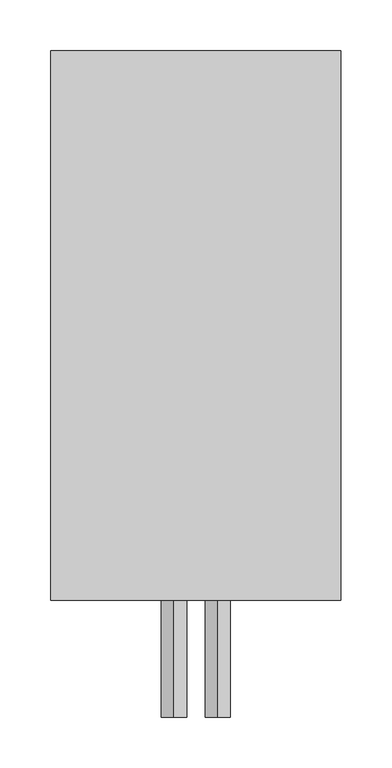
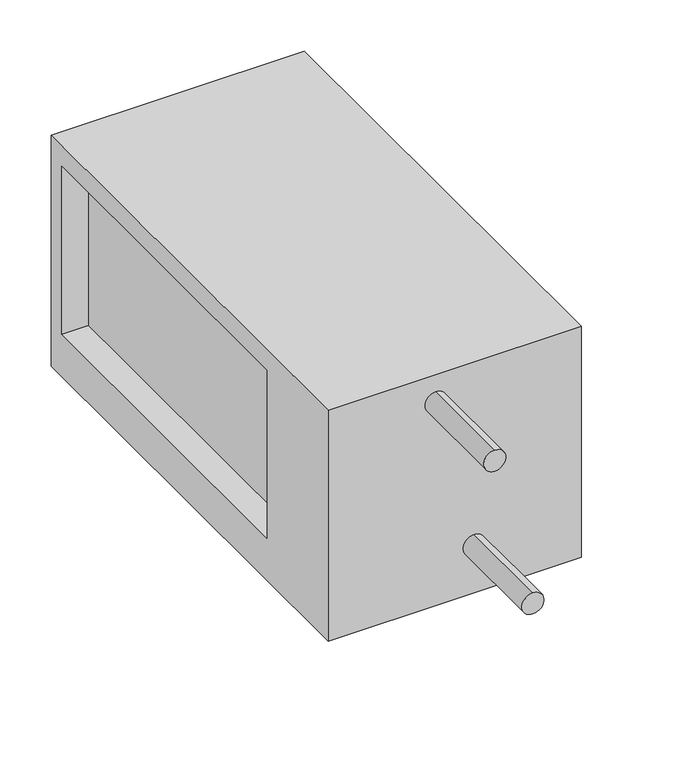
"""IFC4 building model written with IfcOpenShell, lengths in millimetres: proxy geometry, СВ_ВоздухоохладительВодяной_КанальныйПрямоугольный_200-1000_SPC-W : SPC-W-400x200-R."""

from ifc_helpers import new_model, si_unit, point, frame, frame_2d, origin, place, context, project, spatial, polyline, circle_curve, trimmed, segment, composite_curve, outline, extrude, source, transform, mapped, element, save


def mechanical_equipment_c664b790(model_context):
    return source(origin(), model_context, "Body", "SweptSolid", [
        extrude(outline(polyline([(-320.0, -150.0), (-320.0, 125.0), (220.0, 125.0), (220.0, -150.0), (-320.0, -150.0)]), holes=[polyline([(-200.0, 100.0), (-200.0, -100.0), (200.0, -100.0), (200.0, 100.0), (-200.0, 100.0)])]), frame((-142.5, 0.0, 0.0), z_axis=(1.0, 0.0, 0.0), x_axis=(0.0, 1.0, 0.0)), (0.0, 0.0, 1.0), 285.0),
        extrude(outline(composite_curve([segment(trimmed(circle_curve(frame_2d((-92.5, 21.5)), 12.5), [point((-80.0, 21.5))], [point((-105.0, 21.5))], False, "CARTESIAN"), True, "CONTINUOUS"), segment(trimmed(circle_curve(frame_2d((-92.5, 21.5)), 12.5), [point((-105.0, 21.5))], [point((-80.0, 21.5))], False, "CARTESIAN"), True, "CONTINUOUS")], self_intersect=False)), frame((0.0, -435.0, 0.0), z_axis=(0.0, 1.0, 0.0), x_axis=(0.0, 0.0, 1.0)), (0.0, 0.0, 1.0), 115.0),
        extrude(outline(composite_curve([segment(trimmed(circle_curve(frame_2d((92.5, -21.5)), 12.5), [point((105.0, -21.5))], [point((80.0, -21.5))], False, "CARTESIAN"), True, "CONTINUOUS"), segment(trimmed(circle_curve(frame_2d((92.5, -21.5)), 12.5), [point((80.0, -21.5))], [point((105.0, -21.5))], False, "CARTESIAN"), True, "CONTINUOUS")], self_intersect=False)), frame((0.0, -435.0, 0.0), z_axis=(0.0, 1.0, 0.0), x_axis=(0.0, 0.0, 1.0)), (0.0, 0.0, 1.0), 115.0),
        extrude(outline(composite_curve([segment(trimmed(circle_curve(frame_2d((0.0, -280.0)), 11.0), [point((-11.0, -280.0))], [point((11.0, -280.0))], False, "CARTESIAN"), True, "CONTINUOUS"), segment(trimmed(circle_curve(frame_2d((0.0, -280.0)), 11.0), [point((11.0, -280.0))], [point((-11.0, -280.0))], False, "CARTESIAN"), True, "CONTINUOUS")], self_intersect=False)), frame((0.0, 0.0, -170.0), z_axis=(0.0, 0.0, 1.0), x_axis=(1.0, 0.0, 0.0)), (0.0, 0.0, 1.0), 20.0),
        extrude(outline(polyline([(112.5, 200.0), (112.5, -200.0), (-112.5, -200.0), (-112.5, 200.0), (112.5, 200.0)])), frame((0.0, 0.0, -100.0), z_axis=(0.0, 0.0, 1.0), x_axis=(1.0, 0.0, 0.0)), (0.0, 0.0, 1.0), 200.0),
    ])


if __name__ == "__main__":
    model = new_model("IFC4")
    model_context = context("Model", 3, world=origin())
    ifc_project = project(units=[si_unit("LENGTHUNIT", "METRE", prefix="MILLI")], contexts=[model_context])
    site = spatial("IfcSite", under=ifc_project)
    building = spatial("IfcBuilding", under=site)
    placement = place(None, origin())
    mechanical_equipment_shape = mechanical_equipment_c664b790(model_context)
    element("IfcBuildingElementProxy", 1, Name="СВ_ВоздухоохладительВодяной_КанальныйПрямоугольный_200-1000_SPC-W : SPC-W-400x200-R", ObjectType="СВ_ВоздухоохладительВодяной_КанальныйПрямоугольный_200-1000_SPC-W : SPC-W-400x200-R", at=placement, inside=building, context=model_context, shape_type="MappedRepresentation", body=[
        mapped(mechanical_equipment_shape, transform((0.0, 0.0, 0.0), x_axis=(1.0, 0.0, 0.0), y_axis=(0.0, 1.0, 0.0), z_axis=(0.0, 0.0, 1.0))),
    ])
    save(model, "model.ifc")
